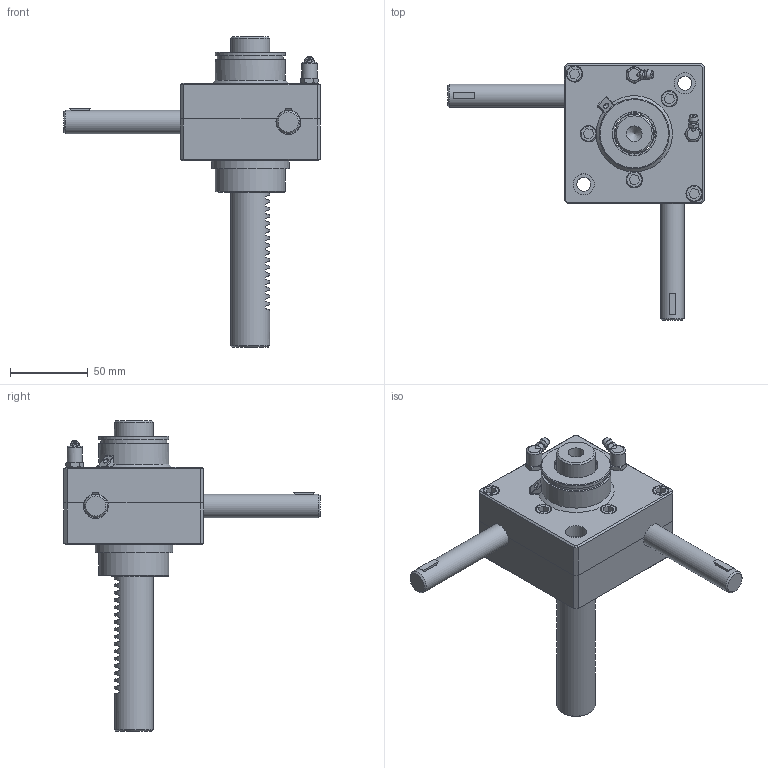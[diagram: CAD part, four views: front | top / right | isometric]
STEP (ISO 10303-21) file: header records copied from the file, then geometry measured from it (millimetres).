
FILE_DESCRIPTION(('STEP AP203'),'1');
FILE_NAME('SP1-500-100ST.stp','2016-08-05T05:33:47',(' '),(' '),'Spatial InterOp 3D',' ',' ');
FILE_SCHEMA(('CONFIG_CONTROL_DESIGN'));
Length unit declared in the file: millimetre
Products named in the file (15): SP1-500-100ST; Rack Gear(SP-500); Body-Part; Gear Box(Upper); Gear Box(Lower); Part1.4; RJ05-4SCJ-610X600-100ST_CAP; LABEL-B.1; ___; 파트18; __ SP500
Assembly tree (21 placements, depth 6):
  SP1-500-100ST
    Rack Gear(SP-500)
    Body-Part
      (unnamed)  x2
      (unnamed)  x5
      (unnamed)  x2
      (unnamed)  x2
      Gear Box(Upper)
      Gear Box(Lower)
        Part1.4
      __ SP500
        ___
          RJ05-4SCJ-610X600-100ST_CAP
            LABEL-B.1
          파트18
Bounding box: 165 x 165.22 x 200 mm (x, y, z)
Volume: 388244.3 mm3; surface area: 129316.5 mm2
Topology: 22 solids, 22 shells, 2230 faces, 6287 edges, 4162 vertices
Faces by surface type: plane 1973, cylinder 137, revolution 42, extrusion 38, cone 34, bspline 5, sphere 1
Full cylindrical faces by diameter (mm): 4.8 x2, 6 x12, 7 x5, 9 x4, 9.886 x2, 10 x1, 10.5 x10, 13.5 x2, 15 x2, 25 x1, 26 x2, 28 x2, 28.3 x2, 29.5 x2, 42.5 x1, 45 x3, 50 x1
Entity records: 68313 total; most frequent: CARTESIAN_POINT 13106, ORIENTED_EDGE 11684, DIRECTION 10377, EDGE_CURVE 5842, VECTOR 5346, LINE 5327, VERTEX_POINT 3916, AXIS2_PLACEMENT_3D 2505
